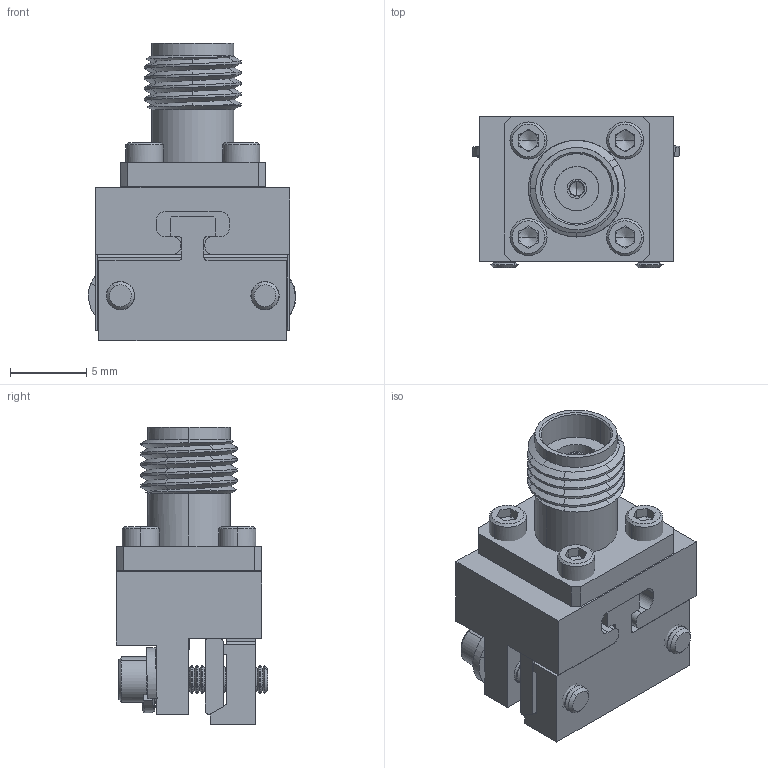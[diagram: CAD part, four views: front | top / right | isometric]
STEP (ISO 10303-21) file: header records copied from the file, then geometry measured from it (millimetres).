
FILE_DESCRIPTION(('CATIA V5 STEP Exchange'),'2;1');
FILE_NAME('C:\Users\Administrator\Desktop\EL-2.92F-006_1.stp','2021-04-06T09:30:53+00:00',('none'),('none'),'CATIA Version 5 Release 20 GA (IN-10)','CATIA V5 STEP AP203','none');
FILE_SCHEMA(('CONFIG_CONTROL_DESIGN'));
Length unit declared in the file: millimetre
Products named in the file (3): EL-2.92F-006_1; EL-2.92F-006; 96-02-9E5-005A
Assembly tree (19 placements, depth 4):
  EL-2.92F-006_1
    EL-2.92F-006
      #66
      #1137
      #1629  x2
      #2248
      #2481
      #2675  x4
      96-02-9E5-005A
        #3457
        #3684
        #4143
        #8156
      #9391
      #11228  x2
Bounding box: 13.62 x 9.96 x 19.53 mm (x, y, z)
Volume: 1163.4 mm3; surface area: 2275.1 mm2
Topology: 17 solids, 17 shells, 730 faces, 1838 edges, 1144 vertices
Faces by surface type: cone 232, cylinder 215, plane 183, bspline 88, torus 12
Entity records: 15808 total; most frequent: CARTESIAN_POINT 5187, ORIENTED_EDGE 2404, DIRECTION 1703, EDGE_CURVE 1202, AXIS2_PLACEMENT_3D 764, VERTEX_POINT 762, EDGE_LOOP 522, VECTOR 503
